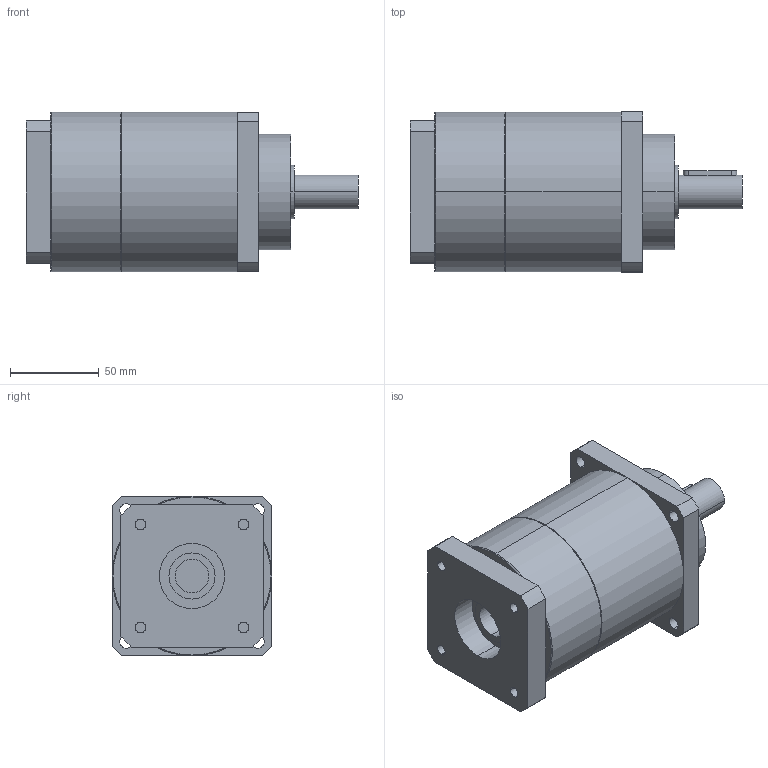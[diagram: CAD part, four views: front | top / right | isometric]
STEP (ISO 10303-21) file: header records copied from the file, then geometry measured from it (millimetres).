
FILE_DESCRIPTION(('CoCreate Modeling STEP Export'),'2;1');
FILE_NAME('GPT90_ig-9-12-16-20-25-28-35-40-50-70-100_19_B5T_19_P27.stp','2015-02-04T11:33:15',(''),(''),'CoCreate Modeling STEP processor for AP214 (Solid Model)','CoCreate Modeling 16.00C 25-Feb-2009 (C) Parametric Technology GmbH','');
FILE_SCHEMA(('AUTOMOTIVE_DESIGN { 1 0 10303 214 1 1 1 1 }'));
Length unit declared in the file: millimetre
Products named in the file (2): GPT90_ig-9-12-16-20-25-28-35-40-50-70-100_19_B5T_19_P27
Assembly tree (1 placements, depth 2):
  GPT90_ig-9-12-16-20-25-28-35-40-50-70-100_19_B5T_19_P27
    GPT90_ig-9-12-16-20-25-28-35-40-50-70-100_19_B5T_19_P27
Bounding box: 187 x 90 x 90 mm (x, y, z)
Volume: 897812 mm3; surface area: 67779.7 mm2
Topology: 1 solids, 1 shells, 85 faces, 213 edges, 142 vertices
Faces by surface type: cylinder 44, plane 37, cone 4
Entity records: 2624 total; most frequent: CARTESIAN_POINT 742, ORIENTED_EDGE 426, DIRECTION 320, EDGE_CURVE 213, VERTEX_POINT 142, AXIS2_PLACEMENT_3D 117, EDGE_LOOP 105, VECTOR 86
